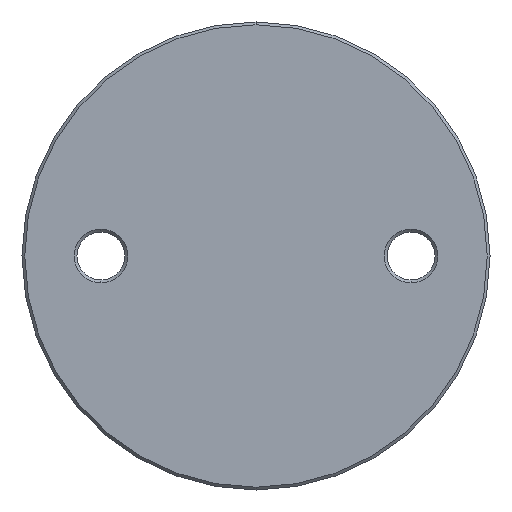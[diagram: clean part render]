
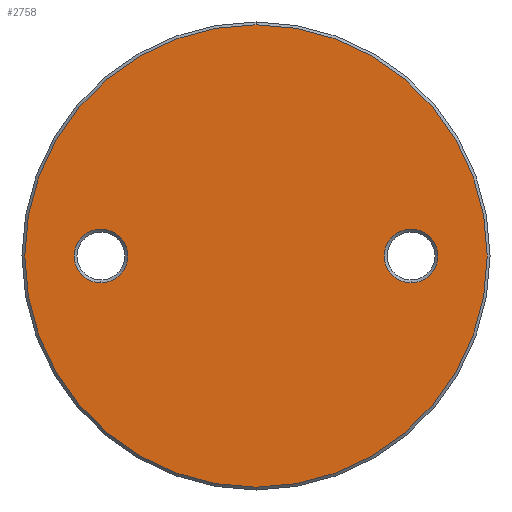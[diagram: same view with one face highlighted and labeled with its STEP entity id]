
A CAD part, front view. The second image highlights one B-rep face of the part: STEP entity #2758.
In plain terms, the highlighted planar face has unit normal (0, -1, 0).
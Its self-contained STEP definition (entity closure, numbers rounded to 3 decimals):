
#58 = CARTESIAN_POINT ( 'NONE',  ( 27.5, -3., -4.75 ) ) ;
#234 = EDGE_CURVE ( 'NONE', #1506, #646, #10401, .T. ) ;
#256 = CIRCLE ( 'NONE', #2732, 4.75 ) ;
#267 = CARTESIAN_POINT ( 'NONE',  ( -27.5, -3., -4.75 ) ) ;
#276 = CARTESIAN_POINT ( 'NONE',  ( 0., -3., -41. ) ) ;
#304 = EDGE_CURVE ( 'NONE', #1670, #7332, #2680, .T. ) ;
#414 = DIRECTION ( 'NONE',  ( 0., 0., -1. ) ) ;
#464 = CARTESIAN_POINT ( 'NONE',  ( 0., -3., 0. ) ) ;
#646 = VERTEX_POINT ( 'NONE', #276 ) ;
#806 = CIRCLE ( 'NONE', #1580, 4.75 ) ;
#1203 = AXIS2_PLACEMENT_3D ( 'NONE', #5393, #4445, #9518 ) ;
#1248 = DIRECTION ( 'NONE',  ( 0., -1., 0. ) ) ;
#1506 = VERTEX_POINT ( 'NONE', #2952 ) ;
#1580 = AXIS2_PLACEMENT_3D ( 'NONE', #10302, #6967, #6858 ) ;
#1670 = VERTEX_POINT ( 'NONE', #58 ) ;
#1774 = ORIENTED_EDGE ( 'NONE', *, *, #234, .T. ) ;
#1801 = CARTESIAN_POINT ( 'NONE',  ( 0., -3., 0. ) ) ;
#1809 = EDGE_CURVE ( 'NONE', #646, #1506, #8257, .T. ) ;
#2329 = CIRCLE ( 'NONE', #1203, 4.75 ) ;
#2486 = EDGE_CURVE ( 'NONE', #7332, #1670, #256, .T. ) ;
#2680 = CIRCLE ( 'NONE', #8509, 4.75 ) ;
#2732 = AXIS2_PLACEMENT_3D ( 'NONE', #5455, #3840, #414 ) ;
#2758 = ADVANCED_FACE ( 'NONE', ( #4455, #10069, #6156 ), #7300, .T. ) ;
#2947 = EDGE_LOOP ( 'NONE', ( #6210, #8166 ) ) ;
#2952 = CARTESIAN_POINT ( 'NONE',  ( 0., -3., 41. ) ) ;
#2970 = ORIENTED_EDGE ( 'NONE', *, *, #2486, .T. ) ;
#3045 = CARTESIAN_POINT ( 'NONE',  ( 0., -3., 41.5 ) ) ;
#3840 = DIRECTION ( 'NONE',  ( 0., 1., 0. ) ) ;
#4445 = DIRECTION ( 'NONE',  ( 0., 1., 0. ) ) ;
#4455 = FACE_BOUND ( 'NONE', #9659, .T. ) ;
#4561 = DIRECTION ( 'NONE',  ( 0., -1., 0. ) ) ;
#4589 = VERTEX_POINT ( 'NONE', #6110 ) ;
#4628 = AXIS2_PLACEMENT_3D ( 'NONE', #1801, #1248, #6305 ) ;
#4963 = AXIS2_PLACEMENT_3D ( 'NONE', #464, #4561, #5431 ) ;
#5393 = CARTESIAN_POINT ( 'NONE',  ( -27.5, -3., 0. ) ) ;
#5431 = DIRECTION ( 'NONE',  ( 0., 0., -1. ) ) ;
#5455 = CARTESIAN_POINT ( 'NONE',  ( 27.5, -3., 0. ) ) ;
#6110 = CARTESIAN_POINT ( 'NONE',  ( -27.5, -3., 4.75 ) ) ;
#6156 = FACE_OUTER_BOUND ( 'NONE', #8004, .T. ) ;
#6210 = ORIENTED_EDGE ( 'NONE', *, *, #9872, .T. ) ;
#6305 = DIRECTION ( 'NONE',  ( 0., 0., -1. ) ) ;
#6440 = AXIS2_PLACEMENT_3D ( 'NONE', #3045, #7268, #8802 ) ;
#6482 = DIRECTION ( 'NONE',  ( 0., 0., -1. ) ) ;
#6827 = ORIENTED_EDGE ( 'NONE', *, *, #304, .T. ) ;
#6858 = DIRECTION ( 'NONE',  ( 0., 0., -1. ) ) ;
#6889 = VERTEX_POINT ( 'NONE', #267 ) ;
#6967 = DIRECTION ( 'NONE',  ( 0., 1., 0. ) ) ;
#7268 = DIRECTION ( 'NONE',  ( 0., -1., 0. ) ) ;
#7300 = PLANE ( 'NONE',  #6440 ) ;
#7332 = VERTEX_POINT ( 'NONE', #9348 ) ;
#7806 = EDGE_CURVE ( 'NONE', #4589, #6889, #2329, .T. ) ;
#8004 = EDGE_LOOP ( 'NONE', ( #1774, #8994 ) ) ;
#8166 = ORIENTED_EDGE ( 'NONE', *, *, #7806, .T. ) ;
#8257 = CIRCLE ( 'NONE', #4628, 41. ) ;
#8509 = AXIS2_PLACEMENT_3D ( 'NONE', #9848, #8999, #6482 ) ;
#8802 = DIRECTION ( 'NONE',  ( 0., 0., -1. ) ) ;
#8994 = ORIENTED_EDGE ( 'NONE', *, *, #1809, .T. ) ;
#8999 = DIRECTION ( 'NONE',  ( 0., 1., 0. ) ) ;
#9348 = CARTESIAN_POINT ( 'NONE',  ( 27.5, -3., 4.75 ) ) ;
#9518 = DIRECTION ( 'NONE',  ( 0., 0., -1. ) ) ;
#9659 = EDGE_LOOP ( 'NONE', ( #6827, #2970 ) ) ;
#9848 = CARTESIAN_POINT ( 'NONE',  ( 27.5, -3., 0. ) ) ;
#9872 = EDGE_CURVE ( 'NONE', #6889, #4589, #806, .T. ) ;
#10069 = FACE_BOUND ( 'NONE', #2947, .T. ) ;
#10302 = CARTESIAN_POINT ( 'NONE',  ( -27.5, -3., 0. ) ) ;
#10401 = CIRCLE ( 'NONE', #4963, 41. ) ;
